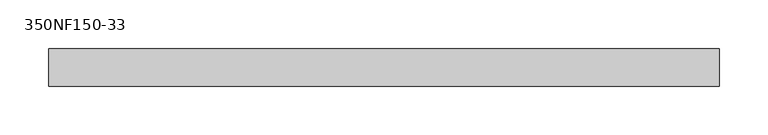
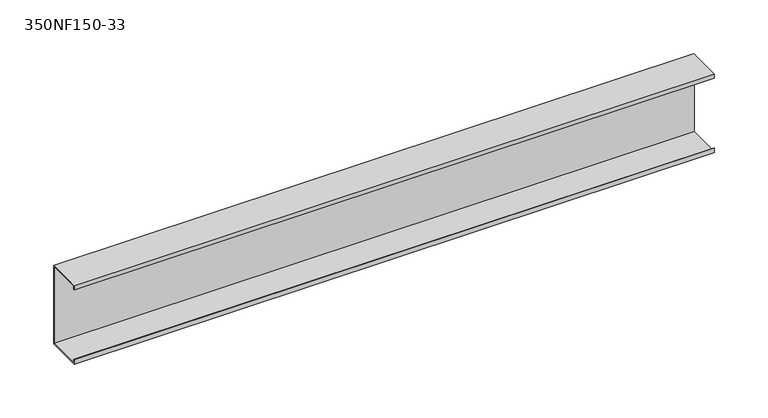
"""IFC4 building model written with IfcOpenShell, lengths in millimetres: beam geometry, BIMSF-SSMA-S : 350NF150-33."""

from ifc_helpers import new_model, si_unit, frame, origin, place, context, project, spatial, polyline, outline, extrude, source, transform, mapped, element, save


def beam_350nf150_33_cdc529ae(model_context):
    return source(origin(), model_context, "Body", "SweptSolid", [
        extrude(outline(polyline([(19.05, 44.45), (19.05, -44.45), (-19.05, -44.45), (-19.05, -39.6748), (-18.1676842, -39.6748), (-18.1676842, -43.5676842), (18.1676842, -43.5676842), (18.1676842, 43.5676842), (-18.1676842, 43.5676842), (-18.1676842, 39.6748), (-19.05, 39.6748), (-19.05, 44.45), (19.05, 44.45)])), frame((-342.9, 0.0, 0.0), z_axis=(1.0, 0.0, 0.0), x_axis=(0.0, 1.0, 0.0)), (0.0, 0.0, 1.0), 685.8),
    ])


if __name__ == "__main__":
    model = new_model("IFC4")
    model_context = context("Model", 3, world=origin())
    ifc_project = project(units=[si_unit("LENGTHUNIT", "METRE", prefix="MILLI")], contexts=[model_context])
    site = spatial("IfcSite", under=ifc_project)
    building = spatial("IfcBuilding", under=site)
    placement = place(None, origin())
    beam_350nf150_33_shape = beam_350nf150_33_cdc529ae(model_context)
    element("IfcBeam", 1, ObjectType="BIMSF-SSMA-S : 350NF150-33", at=placement, inside=building, context=model_context, shape_type="MappedRepresentation", body=[
        mapped(beam_350nf150_33_shape, transform((0.0, 0.0, 0.0), x_axis=(1.0, 0.0, 0.0), y_axis=(0.0, 1.0, 0.0), z_axis=(0.0, 0.0, 1.0))),
    ])
    save(model, "model.ifc")
